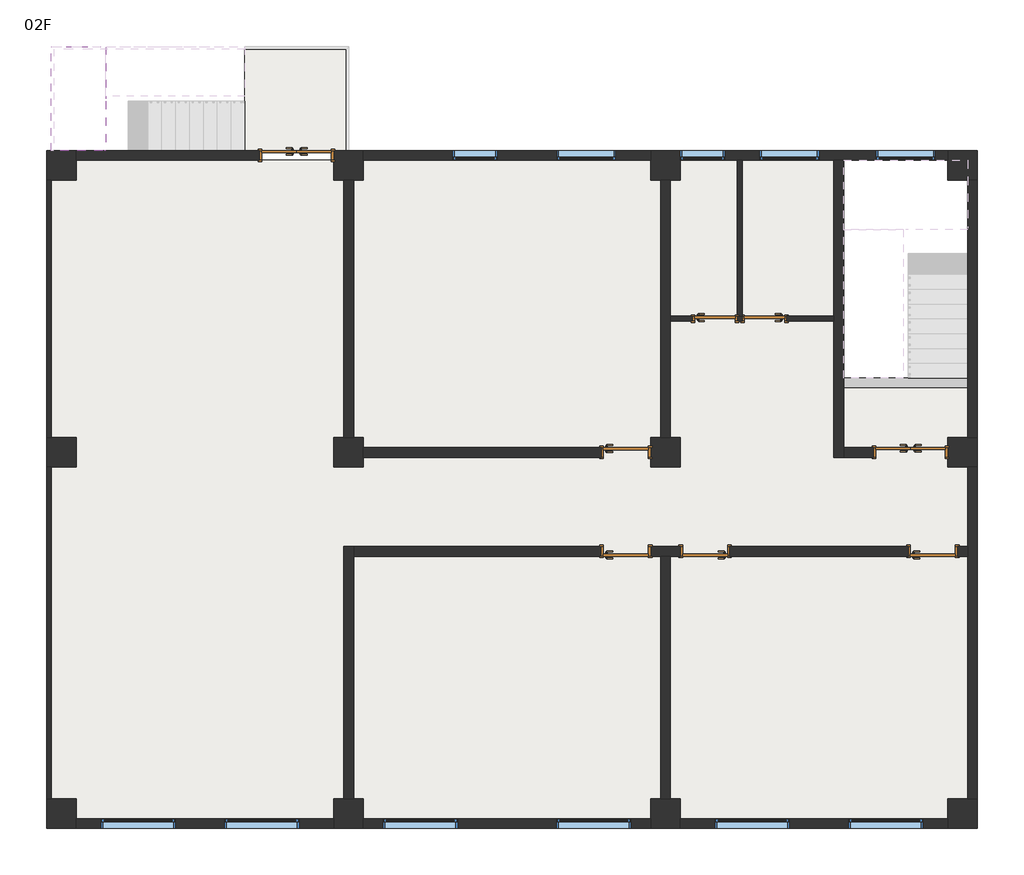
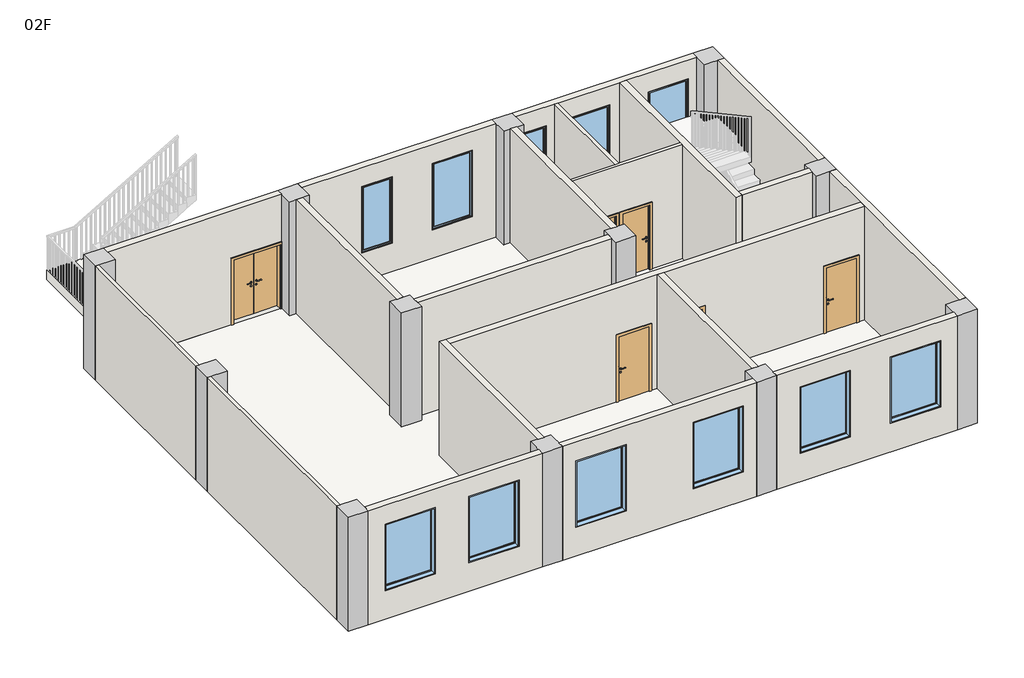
# One storey, part 1 of 3: 20 walls, 12 columns, 11 windows, 8 doors, 3 slabs, 1 beam.
"""IFC4 building model written with IfcOpenShell, lengths in millimetres."""

from ifc_helpers import new_model, si_unit, frame, origin, place, context, project, spatial, polyline, outline, extrude, faceted_brep, transform, mapped, element, save
from components import beam_200_x_350mm_bc6e23a3, column_600_x_600mm_8cf2ae7c, m2_692f9d9b, m3_ab7da2a0, m3_c9bb6752, m4_a67fd2dd, m4_12d08f6f, c1_fb661159, c3_54e22efd, c5_e6b0c997

model = new_model("IFC4")

# Units and contexts
model_context = context("Model", 3, world=origin())
ifc_project = project(units=[si_unit("LENGTHUNIT", "METRE", prefix="MILLI")], contexts=[model_context])

# Site, building, storey
site = spatial("IfcSite", under=ifc_project)
building = spatial("IfcBuilding", under=site)
storey = spatial("IfcBuildingStorey", under=building, Name="02F", Elevation=3600.0)

# Beam
placement = place(None, origin())
beam_200_x_350mm_shape = beam_200_x_350mm_bc6e23a3(model_context)
element("IfcBeam", 1, ObjectType="混凝土 - 矩形梁 : 200 x 350mm", at=placement, inside=storey, context=model_context, shape_type="MappedRepresentation", body=[
    mapped(beam_200_x_350mm_shape, transform((17250.0, 8900.0, 3425.0), x_axis=(1.0, 0.0, 0.0), y_axis=(0.0, 1.0, 0.0), z_axis=(0.0, 0.0, 1.0))),
])

# Columns
column_600_x_600mm_shape = column_600_x_600mm_8cf2ae7c(model_context)
element("IfcColumn", 2, ObjectType="混凝土 - 矩形 - 柱 : 600 x 600mm", at=placement, inside=storey, context=model_context, shape_type="MappedRepresentation", body=[
    mapped(column_600_x_600mm_shape, transform((200.0, 13300.0, 0.0), x_axis=(1.0, 0.0, 0.0), y_axis=(0.0, 1.0, 0.0), z_axis=(0.0, 0.0, 1.0))),
])
element("IfcColumn", 3, ObjectType="混凝土 - 矩形 - 柱 : 600 x 600mm", at=placement, inside=storey, context=model_context, shape_type="MappedRepresentation", body=[
    mapped(column_600_x_600mm_shape, transform((6000.0, 13300.0, 0.0), x_axis=(1.0, 0.0, 0.0), y_axis=(0.0, 1.0, 0.0), z_axis=(0.0, 0.0, 1.0))),
])
element("IfcColumn", 4, ObjectType="混凝土 - 矩形 - 柱 : 600 x 600mm", at=placement, inside=storey, context=model_context, shape_type="MappedRepresentation", body=[
    mapped(column_600_x_600mm_shape, transform((12400.0, 13300.0, 0.0), x_axis=(1.0, 0.0, 0.0), y_axis=(0.0, 1.0, 0.0), z_axis=(0.0, 0.0, 1.0))),
])
element("IfcColumn", 5, ObjectType="混凝土 - 矩形 - 柱 : 600 x 600mm", at=placement, inside=storey, context=model_context, shape_type="MappedRepresentation", body=[
    mapped(column_600_x_600mm_shape, transform((18400.0, 13300.0, 0.0), x_axis=(1.0, 0.0, 0.0), y_axis=(0.0, 1.0, 0.0), z_axis=(0.0, 0.0, 1.0))),
])
element("IfcColumn", 6, ObjectType="混凝土 - 矩形 - 柱 : 600 x 600mm", at=placement, inside=storey, context=model_context, shape_type="MappedRepresentation", body=[
    mapped(column_600_x_600mm_shape, transform((200.0, 7500.0, 0.0), x_axis=(1.0, 0.0, 0.0), y_axis=(0.0, 1.0, 0.0), z_axis=(0.0, 0.0, 1.0))),
])
element("IfcColumn", 7, ObjectType="混凝土 - 矩形 - 柱 : 600 x 600mm", at=placement, inside=storey, context=model_context, shape_type="MappedRepresentation", body=[
    mapped(column_600_x_600mm_shape, transform((6000.0, 7500.0, 0.0), x_axis=(1.0, 0.0, 0.0), y_axis=(0.0, 1.0, 0.0), z_axis=(0.0, 0.0, 1.0))),
])
element("IfcColumn", 8, ObjectType="混凝土 - 矩形 - 柱 : 600 x 600mm", at=placement, inside=storey, context=model_context, shape_type="MappedRepresentation", body=[
    mapped(column_600_x_600mm_shape, transform((12400.0, 7500.0, 0.0), x_axis=(1.0, 0.0, 0.0), y_axis=(0.0, 1.0, 0.0), z_axis=(0.0, 0.0, 1.0))),
])
element("IfcColumn", 9, ObjectType="混凝土 - 矩形 - 柱 : 600 x 600mm", at=placement, inside=storey, context=model_context, shape_type="MappedRepresentation", body=[
    mapped(column_600_x_600mm_shape, transform((18400.0, 7500.0, 0.0), x_axis=(1.0, 0.0, 0.0), y_axis=(0.0, 1.0, 0.0), z_axis=(0.0, 0.0, 1.0))),
])
element("IfcColumn", 10, ObjectType="混凝土 - 矩形 - 柱 : 600 x 600mm", at=placement, inside=storey, context=model_context, shape_type="MappedRepresentation", body=[
    mapped(column_600_x_600mm_shape, transform((200.0, 200.0, 0.0), x_axis=(1.0, 0.0, 0.0), y_axis=(0.0, 1.0, 0.0), z_axis=(0.0, 0.0, 1.0))),
])
element("IfcColumn", 11, ObjectType="混凝土 - 矩形 - 柱 : 600 x 600mm", at=placement, inside=storey, context=model_context, shape_type="MappedRepresentation", body=[
    mapped(column_600_x_600mm_shape, transform((6000.0, 200.0, 0.0), x_axis=(1.0, 0.0, 0.0), y_axis=(0.0, 1.0, 0.0), z_axis=(0.0, 0.0, 1.0))),
])
element("IfcColumn", 12, ObjectType="混凝土 - 矩形 - 柱 : 600 x 600mm", at=placement, inside=storey, context=model_context, shape_type="MappedRepresentation", body=[
    mapped(column_600_x_600mm_shape, transform((12400.0, 200.0, 0.0), x_axis=(1.0, 0.0, 0.0), y_axis=(0.0, 1.0, 0.0), z_axis=(0.0, 0.0, 1.0))),
])
element("IfcColumn", 13, ObjectType="混凝土 - 矩形 - 柱 : 600 x 600mm", at=placement, inside=storey, context=model_context, shape_type="MappedRepresentation", body=[
    mapped(column_600_x_600mm_shape, transform((18400.0, 200.0, 0.0), x_axis=(1.0, 0.0, 0.0), y_axis=(0.0, 1.0, 0.0), z_axis=(0.0, 0.0, 1.0))),
])

# Doors
m2_shape = m2_692f9d9b(model_context)
element("IfcDoor", 14, ObjectType="双面嵌板木门 1 : M2", at=placement, inside=storey, context=model_context, shape_type="MappedRepresentation", body=[
    mapped(m2_shape, transform((4950.0, 13500.0, 3600.0), x_axis=(1.0, 0.0, 0.0), y_axis=(0.0, 1.0, 0.0), z_axis=(0.0, 0.0, 1.0))),
])
element("IfcDoor", 15, ObjectType="双面嵌板木门 1 : M2", at=placement, inside=storey, context=model_context, shape_type="MappedRepresentation", body=[
    mapped(m2_shape, transform((17350.0, 7500.0, 3600.0), x_axis=(1.0, 0.0, 0.0), y_axis=(0.0, 1.0, 0.0), z_axis=(0.0, 0.0, 1.0))),
])
m3_shape = m3_ab7da2a0(model_context)
element("IfcDoor", 16, ObjectType="单嵌板木门 1 : M3", at=placement, inside=storey, context=model_context, shape_type="MappedRepresentation", body=[
    mapped(m3_shape, transform((11600.0, 5500.0, 3600.0), x_axis=(1.0, 0.0, 0.0), y_axis=(0.0, 1.0, 0.0), z_axis=(0.0, 0.0, 1.0))),
])
element("IfcDoor", 17, ObjectType="单嵌板木门 1 : M3", at=placement, inside=storey, context=model_context, shape_type="MappedRepresentation", body=[
    mapped(m3_shape, transform((17800.0, 5500.0, 3600.0), x_axis=(1.0, 0.0, 0.0), y_axis=(0.0, 1.0, 0.0), z_axis=(0.0, 0.0, 1.0))),
])
m3_2_shape = m3_c9bb6752(model_context)
element("IfcDoor", 18, ObjectType="单嵌板木门 1 : M3", at=placement, inside=storey, context=model_context, shape_type="MappedRepresentation", body=[
    mapped(m3_2_shape, transform((11600.0, 7500.0, 3600.0), x_axis=(1.0, 0.0, 0.0), y_axis=(0.0, 1.0, 0.0), z_axis=(0.0, 0.0, 1.0))),
])
element("IfcDoor", 19, ObjectType="单嵌板木门 1 : M3", at=placement, inside=storey, context=model_context, shape_type="MappedRepresentation", body=[
    mapped(m3_2_shape, transform((13200.0, 5500.0, 3600.0), x_axis=(-1.0, 0.0, 0.0), y_axis=(0.0, -1.0, 0.0), z_axis=(0.0, 0.0, 1.0))),
])
m4_shape = m4_a67fd2dd(model_context)
element("IfcDoor", 20, ObjectType="单嵌板木门 1 : M4", at=placement, inside=storey, context=model_context, shape_type="MappedRepresentation", body=[
    mapped(m4_shape, transform((13400.0, 10200.0, 3600.0), x_axis=(1.0, 0.0, 0.0), y_axis=(0.0, 1.0, 0.0), z_axis=(0.0, 0.0, 1.0))),
])
m4_2_shape = m4_12d08f6f(model_context)
element("IfcDoor", 21, ObjectType="单嵌板木门 1 : M4", at=placement, inside=storey, context=model_context, shape_type="MappedRepresentation", body=[
    mapped(m4_2_shape, transform((14400.0, 10200.0, 3600.0), x_axis=(-1.0, 0.0, 0.0), y_axis=(0.0, -1.0, 0.0), z_axis=(0.0, 0.0, 1.0))),
])

# Slabs
element("IfcSlab", 22, ObjectType="100mm厚钢筋混凝土", at=placement, inside=storey, context=model_context, shape_type="SweptSolid", body=[
    extrude(outline(polyline([(15800.0, 13400.0), (15800.0, 8800.0), (18500.0, 8800.0), (18500.0, 100.0), (0.0, 100.0), (0.0, 13400.0), (15800.0, 13400.0)])), frame((0.0, 0.0, 3500.0), z_axis=(0.0, 0.0, 1.0), x_axis=(1.0, 0.0, 0.0)), (0.0, 0.0, 1.0), 100.0),
])
element("IfcSlab", 23, ObjectType="300mm 厚度", at=placement, inside=storey, context=model_context, shape_type="Brep", body=[
    faceted_brep([(1100.0, 13600.0, 5400.0), (1100.0, 14600.0, 5400.0), (1100.0, 14700.0, 5400.0), (1100.0, 15700.0, 5400.0), (883.9506686, 15700.0, 5400.0), (0.0, 15700.0, 5400.0), (0.0, 13600.0, 5400.0), (1036.0493314, 13600.0, 5400.0), (1100.0, 13600.0, 5236.3636364), (1100.0, 13600.0, 5062.6262327), (1100.0, 14600.0, 5062.6262327), (1100.0, 14600.0, 5100.0), (1100.0, 14700.0, 5100.0), (1100.0, 14700.0, 5226.2625963), (1100.0, 15700.0, 5226.2625963), (883.9506686, 15700.0, 5100.0), (0.0, 15700.0, 5100.0), (0.0, 13600.0, 5100.0), (1036.0493314, 13600.0, 5100.0), (883.9506686, 14700.0, 5100.0), (1036.0493314, 14600.0, 5100.0)], [[[0, 1, 2, 3, 4, 5, 6, 7]], [[1, 0, 8, 9, 10, 11]], [[2, 1, 11, 12, 13]], [[3, 2, 13, 14]], [[3, 14, 15, 16, 5, 4]], [[6, 5, 16, 17]], [[9, 8, 0, 7, 6, 17, 18]], [[19, 12, 11, 20, 18, 17, 16, 15]], [[12, 19, 13]], [[18, 20, 10, 9]], [[20, 11, 10]], [[19, 15, 14, 13]]]),
])
element("IfcSlab", 24, ObjectType="常规 - 300mm", at=placement, inside=storey, context=model_context, shape_type="SweptSolid", body=[
    extrude(outline(polyline([(6000.0, 15700.0), (6000.0, 13600.0), (3900.0, 13600.0), (3900.0, 15700.0), (6000.0, 15700.0)])), frame((0.0, 0.0, 3435.0), z_axis=(0.0, 0.0, 1.0), x_axis=(1.0, 0.0, 0.0)), (0.0, 0.0, 1.0), 165.0),
])

# Walls
element("IfcWall", 25, ObjectType="200mm厚加气混凝土砌块", at=placement, inside=storey, context=model_context, shape_type="SweptSolid", body=[
    extrude(outline(polyline([(7200.0, 5700.0), (7200.0, 500.0), (3600.0, 500.0), (3600.0, 4200.0), (5700.0, 4200.0), (5700.0, 5700.0), (7200.0, 5700.0)])), frame((0.0, 13400.0, 0.0), z_axis=(0.0, 1.0, 0.0), x_axis=(0.0, 0.0, 1.0)), (0.0, 0.0, 1.0), 200.0),
])
element("IfcWall", 26, ObjectType="200mm厚加气混凝土砌块", at=placement, inside=storey, context=model_context, shape_type="SweptSolid", body=[
    extrude(outline(polyline([(3600.0, 6300.0), (3600.0, 12100.0), (7200.0, 12100.0), (7200.0, 6300.0), (3600.0, 6300.0)]), holes=[polyline([(4500.0, 9000.0), (4500.0, 8100.0), (6600.0, 8100.0), (6600.0, 9000.0), (4500.0, 9000.0)]), polyline([(4500.0, 11400.0), (4500.0, 10200.0), (6600.0, 10200.0), (6600.0, 11400.0), (4500.0, 11400.0)])]), frame((0.0, 13400.0, 0.0), z_axis=(0.0, 1.0, 0.0), x_axis=(0.0, 0.0, 1.0)), (0.0, 0.0, 1.0), 200.0),
])
element("IfcWall", 27, ObjectType="200mm厚加气混凝土砌块", at=placement, inside=storey, context=model_context, shape_type="Brep", body=[
    faceted_brep([(13600.0, 13400.0, 4500.0), (12700.0, 13400.0, 4500.0), (12700.0, 13400.0, 3600.0), (13850.0, 13400.0, 3600.0), (13950.0, 13400.0, 3600.0), (15800.0, 13400.0, 3600.0), (16000.0, 13400.0, 3600.0), (18100.0, 13400.0, 3600.0), (18100.0, 13400.0, 7200.0), (16000.0, 13400.0, 7200.0), (15800.0, 13400.0, 7200.0), (13950.0, 13400.0, 7200.0), (13850.0, 13400.0, 7200.0), (12700.0, 13400.0, 7200.0), (12700.0, 13400.0, 6600.0), (13600.0, 13400.0, 6600.0), (17850.0, 13400.0, 4500.0), (16650.0, 13400.0, 4500.0), (16650.0, 13400.0, 6600.0), (17850.0, 13400.0, 6600.0), (15500.0, 13400.0, 4500.0), (14300.0, 13400.0, 4500.0), (14300.0, 13400.0, 6600.0), (15500.0, 13400.0, 6600.0), (12700.0, 13600.0, 3600.0), (12700.0, 13600.0, 4500.0), (13600.0, 13600.0, 4500.0), (13600.0, 13600.0, 6600.0), (12700.0, 13600.0, 6600.0), (12700.0, 13600.0, 7200.0), (18100.0, 13600.0, 7200.0), (18100.0, 13600.0, 3600.0), (17850.0, 13600.0, 4500.0), (17850.0, 13600.0, 6600.0), (16650.0, 13600.0, 6600.0), (16650.0, 13600.0, 4500.0), (15500.0, 13600.0, 4500.0), (15500.0, 13600.0, 6600.0), (14300.0, 13600.0, 6600.0), (14300.0, 13600.0, 4500.0)], [[[0, 1, 2, 3, 4, 5, 6, 7, 8, 9, 10, 11, 12, 13, 14, 15], [16, 17, 18, 19], [20, 21, 22, 23]], [[24, 25, 26, 27, 28, 29, 30, 31], [32, 33, 34, 35], [36, 37, 38, 39]], [[7, 6, 5, 4, 3, 2, 24, 31]], [[8, 7, 31, 30]], [[13, 12, 11, 10, 9, 8, 30, 29]], [[14, 13, 29, 28]], [[2, 1, 25, 24]], [[33, 32, 16, 19]], [[34, 33, 19, 18]], [[35, 34, 18, 17]], [[32, 35, 17, 16]], [[37, 36, 20, 23]], [[38, 37, 23, 22]], [[39, 38, 22, 21]], [[36, 39, 21, 20]], [[27, 26, 0, 15]], [[28, 27, 15, 14]], [[26, 25, 1, 0]]]),
])
element("IfcWall", 28, ObjectType="200mm厚加气混凝土砌块", at=placement, inside=storey, context=model_context, shape_type="SweptSolid", body=[
    extrude(outline(polyline([(18500.0, 7800.0), (18500.0, 13000.0), (18700.0, 13000.0), (18700.0, 7800.0), (18500.0, 7800.0)])), frame((0.0, 0.0, 3600.0), z_axis=(0.0, 0.0, 1.0), x_axis=(1.0, 0.0, 0.0)), (0.0, 0.0, 1.0), 3600.0),
])
element("IfcWall", 29, ObjectType="200mm厚加气混凝土砌块", at=placement, inside=storey, context=model_context, shape_type="Brep", body=[
    faceted_brep([(18500.0, 7200.0, 3600.0), (18500.0, 5600.0, 3600.0), (18500.0, 5400.0, 3600.0), (18500.0, 500.0, 3600.0), (18500.0, 500.0, 7200.0), (18500.0, 5400.0, 7200.0), (18500.0, 5600.0, 7200.0), (18500.0, 7200.0, 7200.0), (18700.0, 7200.0, 3600.0), (18700.0, 7200.0, 7200.0), (18700.0, 500.0, 7200.0), (18700.0, 500.0, 3600.0)], [[[0, 1, 2, 3, 4, 5, 6, 7]], [[8, 9, 10, 11]], [[3, 2, 1, 0, 8, 11]], [[4, 3, 11, 10]], [[7, 6, 5, 4, 10, 9]], [[0, 7, 9, 8]]]),
])
element("IfcWall", 30, ObjectType="200mm厚加气混凝土砌块", at=placement, inside=storey, context=model_context, shape_type="SweptSolid", body=[
    extrude(outline(polyline([(3600.0, 18100.0), (7200.0, 18100.0), (7200.0, 12700.0), (3600.0, 12700.0), (3600.0, 18100.0)]), holes=[polyline([(4500.0, 13400.0), (6600.0, 13400.0), (6600.0, 14900.0), (4500.0, 14900.0), (4500.0, 13400.0)]), polyline([(4500.0, 16100.0), (6600.0, 16100.0), (6600.0, 17600.0), (4500.0, 17600.0), (4500.0, 16100.0)])]), frame((0.0, -100.0, 0.0), z_axis=(0.0, 1.0, 0.0), x_axis=(0.0, 0.0, 1.0)), (0.0, 0.0, 1.0), 200.0),
])
element("IfcWall", 31, ObjectType="200mm厚加气混凝土砌块", at=placement, inside=storey, context=model_context, shape_type="SweptSolid", body=[
    extrude(outline(polyline([(3600.0, 12100.0), (7200.0, 12100.0), (7200.0, 6300.0), (3600.0, 6300.0), (3600.0, 12100.0)]), holes=[polyline([(4500.0, 6700.0), (6600.0, 6700.0), (6600.0, 8200.0), (4500.0, 8200.0), (4500.0, 6700.0)]), polyline([(4500.0, 10200.0), (6600.0, 10200.0), (6600.0, 11700.0), (4500.0, 11700.0), (4500.0, 10200.0)])]), frame((0.0, -100.0, 0.0), z_axis=(0.0, 1.0, 0.0), x_axis=(0.0, 0.0, 1.0)), (0.0, 0.0, 1.0), 200.0),
])
element("IfcWall", 32, ObjectType="200mm厚加气混凝土砌块", at=placement, inside=storey, context=model_context, shape_type="SweptSolid", body=[
    extrude(outline(polyline([(3600.0, 5700.0), (7200.0, 5700.0), (7200.0, 500.0), (3600.0, 500.0), (3600.0, 5700.0)]), holes=[polyline([(4500.0, 1000.0), (6600.0, 1000.0), (6600.0, 2500.0), (4500.0, 2500.0), (4500.0, 1000.0)]), polyline([(4500.0, 3500.0), (6600.0, 3500.0), (6600.0, 5000.0), (4500.0, 5000.0), (4500.0, 3500.0)])]), frame((0.0, -100.0, 0.0), z_axis=(0.0, 1.0, 0.0), x_axis=(0.0, 0.0, 1.0)), (0.0, 0.0, 1.0), 200.0),
])
element("IfcWall", 33, ObjectType="100mm厚加气混凝土砌块", at=placement, inside=storey, context=model_context, shape_type="SweptSolid", body=[
    extrude(outline(polyline([(0.0, 7200.0), (0.0, 500.0), (-100.0, 500.0), (-100.0, 7200.0), (0.0, 7200.0)])), frame((0.0, 0.0, 3600.0), z_axis=(0.0, 0.0, 1.0), x_axis=(1.0, 0.0, 0.0)), (0.0, 0.0, 1.0), 3600.0),
])
element("IfcWall", 34, ObjectType="100mm厚加气混凝土砌块", at=placement, inside=storey, context=model_context, shape_type="SweptSolid", body=[
    extrude(outline(polyline([(0.0, 13000.0), (0.0, 7800.0), (-100.0, 7800.0), (-100.0, 13000.0), (0.0, 13000.0)])), frame((0.0, 0.0, 3600.0), z_axis=(0.0, 0.0, 1.0), x_axis=(1.0, 0.0, 0.0)), (0.0, 0.0, 1.0), 3600.0),
])
element("IfcWall", 35, ObjectType="200mm厚加气混凝土砌块", at=placement, inside=storey, context=model_context, shape_type="SweptSolid", body=[
    extrude(outline(polyline([(5900.0, 7800.0), (5900.0, 13000.0), (6100.0, 13000.0), (6100.0, 7800.0), (5900.0, 7800.0)])), frame((0.0, 0.0, 3600.0), z_axis=(0.0, 0.0, 1.0), x_axis=(1.0, 0.0, 0.0)), (0.0, 0.0, 1.0), 3600.0),
])
element("IfcWall", 36, ObjectType="200mm厚加气混凝土砌块", at=placement, inside=storey, context=model_context, shape_type="Brep", body=[
    faceted_brep([(5900.0, 5600.0, 3600.0), (5900.0, 500.0, 3600.0), (5900.0, 500.0, 7200.0), (5900.0, 5600.0, 7200.0), (6100.0, 5600.0, 3600.0), (6100.0, 5600.0, 7200.0), (6100.0, 5400.0, 7200.0), (6100.0, 500.0, 7200.0), (6100.0, 500.0, 3600.0), (6100.0, 5400.0, 3600.0)], [[[0, 1, 2, 3]], [[4, 5, 6, 7, 8, 9]], [[1, 0, 4, 9, 8]], [[2, 1, 8, 7]], [[3, 2, 7, 6, 5]], [[0, 3, 5, 4]]]),
])
element("IfcWall", 37, ObjectType="200mm厚加气混凝土砌块", at=placement, inside=storey, context=model_context, shape_type="Brep", body=[
    faceted_brep([(18500.0, 5400.0, 7200.0), (12500.0, 5400.0, 7200.0), (12300.0, 5400.0, 7200.0), (6100.0, 5400.0, 7200.0), (6100.0, 5400.0, 3600.0), (11100.0, 5400.0, 3600.0), (11100.0, 5400.0, 5700.0), (12100.0, 5400.0, 5700.0), (12100.0, 5400.0, 3600.0), (12300.0, 5400.0, 3600.0), (12500.0, 5400.0, 3600.0), (12700.0, 5400.0, 3600.0), (12700.0, 5400.0, 5700.0), (13700.0, 5400.0, 5700.0), (13700.0, 5400.0, 3600.0), (17300.0, 5400.0, 3600.0), (17300.0, 5400.0, 5700.0), (18300.0, 5400.0, 5700.0), (18300.0, 5400.0, 3600.0), (18500.0, 5400.0, 3600.0), (6100.0, 5600.0, 7200.0), (18500.0, 5600.0, 7200.0), (18500.0, 5600.0, 3600.0), (18300.0, 5600.0, 3600.0), (18300.0, 5600.0, 5700.0), (17300.0, 5600.0, 5700.0), (17300.0, 5600.0, 3600.0), (13700.0, 5600.0, 3600.0), (13700.0, 5600.0, 5700.0), (12700.0, 5600.0, 5700.0), (12700.0, 5600.0, 3600.0), (12100.0, 5600.0, 3600.0), (12100.0, 5600.0, 5700.0), (11100.0, 5600.0, 5700.0), (11100.0, 5600.0, 3600.0), (6100.0, 5600.0, 3600.0)], [[[0, 1, 2, 3, 4, 5, 6, 7, 8, 9, 10, 11, 12, 13, 14, 15, 16, 17, 18, 19]], [[20, 21, 22, 23, 24, 25, 26, 27, 28, 29, 30, 31, 32, 33, 34, 35]], [[4, 35, 34, 5]], [[22, 19, 18, 23]], [[8, 31, 30, 11, 10, 9]], [[14, 27, 26, 15]], [[3, 2, 1, 0, 21, 20]], [[4, 3, 20, 35]], [[0, 19, 22, 21]], [[7, 32, 31, 8]], [[32, 7, 6, 33]], [[33, 6, 5, 34]], [[29, 12, 11, 30]], [[12, 29, 28, 13]], [[13, 28, 27, 14]], [[17, 24, 23, 18]], [[24, 17, 16, 25]], [[25, 16, 15, 26]]]),
])
element("IfcWall", 38, ObjectType="200mm厚加气混凝土砌块", at=placement, inside=storey, context=model_context, shape_type="SweptSolid", body=[
    extrude(outline(polyline([(12300.0, 500.0), (12300.0, 5400.0), (12500.0, 5400.0), (12500.0, 500.0), (12300.0, 500.0)])), frame((0.0, 0.0, 3600.0), z_axis=(0.0, 0.0, 1.0), x_axis=(1.0, 0.0, 0.0)), (0.0, 0.0, 1.0), 3600.0),
])
element("IfcWall", 39, ObjectType="200mm厚加气混凝土砌块", at=placement, inside=storey, context=model_context, shape_type="Brep", body=[
    faceted_brep([(12300.0, 13000.0, 3600.0), (12300.0, 7800.0, 3600.0), (12300.0, 7800.0, 7200.0), (12300.0, 13000.0, 7200.0), (12500.0, 13000.0, 3600.0), (12500.0, 13000.0, 7200.0), (12500.0, 10250.0, 7200.0), (12500.0, 10150.0, 7200.0), (12500.0, 7800.0, 7200.0), (12500.0, 7800.0, 3600.0), (12500.0, 10150.0, 3600.0), (12500.0, 10250.0, 3600.0)], [[[0, 1, 2, 3]], [[4, 5, 6, 7, 8, 9, 10, 11]], [[1, 0, 4, 11, 10, 9]], [[2, 1, 9, 8]], [[3, 2, 8, 7, 6, 5]], [[0, 3, 5, 4]]]),
])
element("IfcWall", 40, ObjectType="200mm厚加气混凝土砌块", at=placement, inside=storey, context=model_context, shape_type="Brep", body=[
    faceted_brep([(15800.0, 13400.0, 3600.0), (15800.0, 10250.0, 3600.0), (15800.0, 10150.0, 3600.0), (15800.0, 7400.0, 3600.0), (15800.0, 7400.0, 7200.0), (15800.0, 10150.0, 7200.0), (15800.0, 10250.0, 7200.0), (15800.0, 13400.0, 7200.0), (16000.0, 13400.0, 3600.0), (16000.0, 13400.0, 7200.0), (16000.0, 7600.0, 7200.0), (16000.0, 7400.0, 7200.0), (16000.0, 7400.0, 3600.0), (16000.0, 7600.0, 3600.0)], [[[0, 1, 2, 3, 4, 5, 6, 7]], [[8, 9, 10, 11, 12, 13]], [[3, 2, 1, 0, 8, 13, 12]], [[7, 6, 5, 4, 11, 10, 9]], [[0, 7, 9, 8]], [[4, 3, 12, 11]]]),
])
element("IfcWall", 41, ObjectType="200mm厚加气混凝土砌块", at=placement, inside=storey, context=model_context, shape_type="SweptSolid", body=[
    extrude(outline(polyline([(7200.0, 18100.0), (7200.0, 16000.0), (3600.0, 16000.0), (3600.0, 16600.0), (5700.0, 16600.0), (5700.0, 18100.0), (7200.0, 18100.0)])), frame((0.0, 7400.0, 0.0), z_axis=(0.0, 1.0, 0.0), x_axis=(0.0, 0.0, 1.0)), (0.0, 0.0, 1.0), 200.0),
])
element("IfcWall", 42, ObjectType="100mm厚加气混凝土砌块", at=placement, inside=storey, context=model_context, shape_type="Brep", body=[
    faceted_brep([(15800.0, 10150.0, 7200.0), (12500.0, 10150.0, 7200.0), (12500.0, 10150.0, 3600.0), (12950.0, 10150.0, 3600.0), (12950.0, 10150.0, 5700.0), (13850.0, 10150.0, 5700.0), (13850.0, 10150.0, 3600.0), (13950.0, 10150.0, 3600.0), (13950.0, 10150.0, 5700.0), (14850.0, 10150.0, 5700.0), (14850.0, 10150.0, 3600.0), (15800.0, 10150.0, 3600.0), (12500.0, 10250.0, 7200.0), (13850.0, 10250.0, 7200.0), (13950.0, 10250.0, 7200.0), (15800.0, 10250.0, 7200.0), (15800.0, 10250.0, 3600.0), (14850.0, 10250.0, 3600.0), (14850.0, 10250.0, 5700.0), (13950.0, 10250.0, 5700.0), (13950.0, 10250.0, 3600.0), (13850.0, 10250.0, 3600.0), (13850.0, 10250.0, 5700.0), (12950.0, 10250.0, 5700.0), (12950.0, 10250.0, 3600.0), (12500.0, 10250.0, 3600.0)], [[[0, 1, 2, 3, 4, 5, 6, 7, 8, 9, 10, 11]], [[12, 13, 14, 15, 16, 17, 18, 19, 20, 21, 22, 23, 24, 25]], [[2, 25, 24, 3]], [[16, 11, 10, 17]], [[20, 7, 6, 21]], [[1, 0, 15, 14, 13, 12]], [[2, 1, 12, 25]], [[0, 11, 16, 15]], [[19, 8, 7, 20]], [[8, 19, 18, 9]], [[9, 18, 17, 10]], [[5, 22, 21, 6]], [[22, 5, 4, 23]], [[23, 4, 3, 24]]]),
])
element("IfcWall", 43, ObjectType="100mm厚加气混凝土砌块", at=placement, inside=storey, context=model_context, shape_type="SweptSolid", body=[
    extrude(outline(polyline([(13850.0, 10250.0), (13850.0, 13400.0), (13950.0, 13400.0), (13950.0, 10250.0), (13850.0, 10250.0)])), frame((0.0, 0.0, 3600.0), z_axis=(0.0, 0.0, 1.0), x_axis=(1.0, 0.0, 0.0)), (0.0, 0.0, 1.0), 3600.0),
])
element("IfcWall", 44, ObjectType="200mm厚加气混凝土砌块", at=placement, inside=storey, context=model_context, shape_type="SweptSolid", body=[
    extrude(outline(polyline([(7200.0, 12100.0), (7200.0, 6300.0), (3600.0, 6300.0), (3600.0, 11100.0), (5700.0, 11100.0), (5700.0, 12100.0), (7200.0, 12100.0)])), frame((0.0, 7400.0, 0.0), z_axis=(0.0, 1.0, 0.0), x_axis=(0.0, 0.0, 1.0)), (0.0, 0.0, 1.0), 200.0),
])

# Windows
c1_shape = c1_fb661159(model_context)
element("IfcWindow", 45, ObjectType="固定 : C1", at=placement, inside=storey, context=model_context, shape_type="MappedRepresentation", body=[
    mapped(c1_shape, transform((10950.0, -13.0, 3600.0), x_axis=(1.0, 0.0, 0.0), y_axis=(0.0, 1.0, 0.0), z_axis=(0.0, 0.0, 1.0))),
])
element("IfcWindow", 46, ObjectType="固定 : C1", at=placement, inside=storey, context=model_context, shape_type="MappedRepresentation", body=[
    mapped(c1_shape, transform((7450.0, -13.0, 3600.0), x_axis=(1.0, 0.0, 0.0), y_axis=(0.0, 1.0, 0.0), z_axis=(0.0, 0.0, 1.0))),
])
element("IfcWindow", 47, ObjectType="固定 : C1", at=placement, inside=storey, context=model_context, shape_type="MappedRepresentation", body=[
    mapped(c1_shape, transform((4250.0, -13.0, 3600.0), x_axis=(1.0, 0.0, 0.0), y_axis=(0.0, 1.0, 0.0), z_axis=(0.0, 0.0, 1.0))),
])
element("IfcWindow", 48, ObjectType="固定 : C1", at=placement, inside=storey, context=model_context, shape_type="MappedRepresentation", body=[
    mapped(c1_shape, transform((1750.0, -13.0, 3600.0), x_axis=(1.0, 0.0, 0.0), y_axis=(0.0, 1.0, 0.0), z_axis=(0.0, 0.0, 1.0))),
])
element("IfcWindow", 49, ObjectType="固定 : C1", at=placement, inside=storey, context=model_context, shape_type="MappedRepresentation", body=[
    mapped(c1_shape, transform((14150.0, -13.0, 3600.0), x_axis=(1.0, 0.0, 0.0), y_axis=(0.0, 1.0, 0.0), z_axis=(0.0, 0.0, 1.0))),
])
element("IfcWindow", 50, ObjectType="固定 : C1", at=placement, inside=storey, context=model_context, shape_type="MappedRepresentation", body=[
    mapped(c1_shape, transform((16850.0, -13.0, 3600.0), x_axis=(1.0, 0.0, 0.0), y_axis=(0.0, 1.0, 0.0), z_axis=(0.0, 0.0, 1.0))),
])
c3_shape = c3_54e22efd(model_context)
element("IfcWindow", 51, ObjectType="固定 : C3", at=placement, inside=storey, context=model_context, shape_type="MappedRepresentation", body=[
    mapped(c3_shape, transform((14900.0, 13513.0, 3600.0), x_axis=(-1.0, 0.0, 0.0), y_axis=(0.0, -1.0, 0.0), z_axis=(0.0, 0.0, 1.0))),
])
element("IfcWindow", 52, ObjectType="固定 : C3", at=placement, inside=storey, context=model_context, shape_type="MappedRepresentation", body=[
    mapped(c3_shape, transform((17250.0, 13513.0, 3600.0), x_axis=(-1.0, 0.0, 0.0), y_axis=(0.0, -1.0, 0.0), z_axis=(0.0, 0.0, 1.0))),
])
element("IfcWindow", 53, ObjectType="固定 : C3", at=placement, inside=storey, context=model_context, shape_type="MappedRepresentation", body=[
    mapped(c3_shape, transform((10800.0, 13513.0, 3600.0), x_axis=(-1.0, 0.0, 0.0), y_axis=(0.0, -1.0, 0.0), z_axis=(0.0, 0.0, 1.0))),
])
c5_shape = c5_e6b0c997(model_context)
element("IfcWindow", 54, ObjectType="固定 : C5", at=placement, inside=storey, context=model_context, shape_type="MappedRepresentation", body=[
    mapped(c5_shape, transform((8550.0, 13513.0, 3600.0), x_axis=(-1.0, 0.0, 0.0), y_axis=(0.0, -1.0, 0.0), z_axis=(0.0, 0.0, 1.0))),
])
element("IfcWindow", 55, ObjectType="固定 : C5", at=placement, inside=storey, context=model_context, shape_type="MappedRepresentation", body=[
    mapped(c5_shape, transform((13150.0, 13513.0, 3600.0), x_axis=(-1.0, 0.0, 0.0), y_axis=(0.0, -1.0, 0.0), z_axis=(0.0, 0.0, 1.0))),
])

save(model, "model.ifc")
